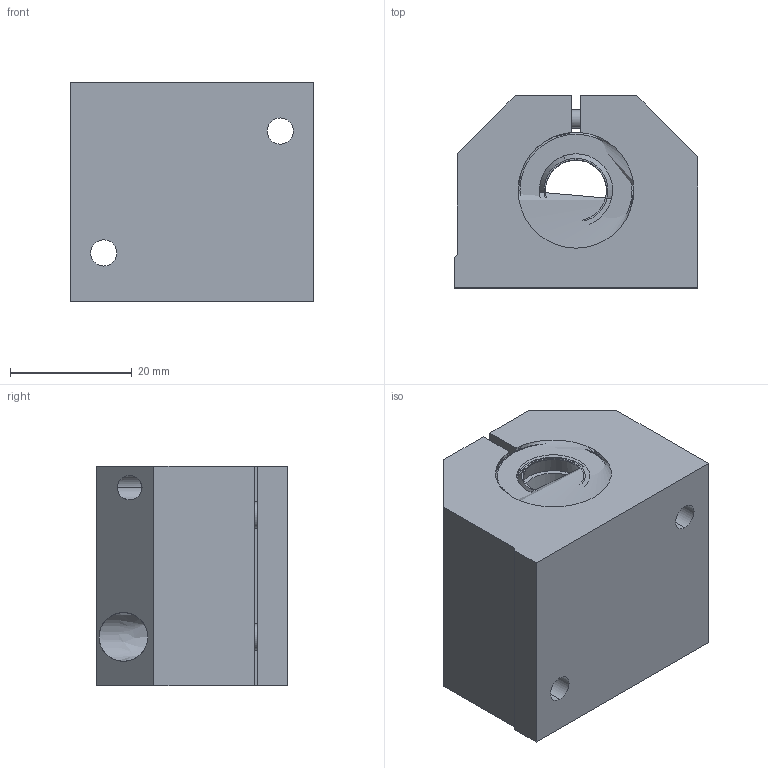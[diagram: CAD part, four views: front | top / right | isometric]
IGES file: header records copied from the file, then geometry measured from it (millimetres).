
Start section: 3D InterOp IGES (Version 21 0 1), Spatial Corp. Copyright (c) 1999-2007.
Global section: file name: SLS-10.igs; native system: Spatial Corp.; preprocessor: 3D InterOp GENERIC/IGES 3.0; author: Noname; organization: Noname; date: 20220309.161156; units: millimetre
Bounding box: 40 x 31.5 x 36 mm (x, y, z)
Surface area: 11395.2 mm2 (no closed solid volume)
Topology: 0 solids, 0 shells, 142 faces, 698 edges, 688 vertices
Faces by surface type: revolution 101, extrusion 41
